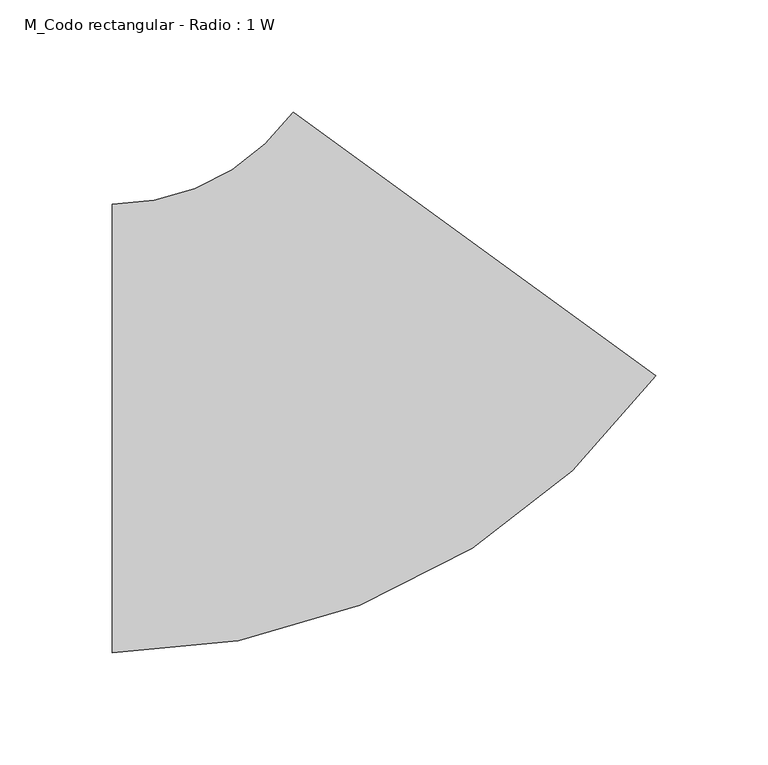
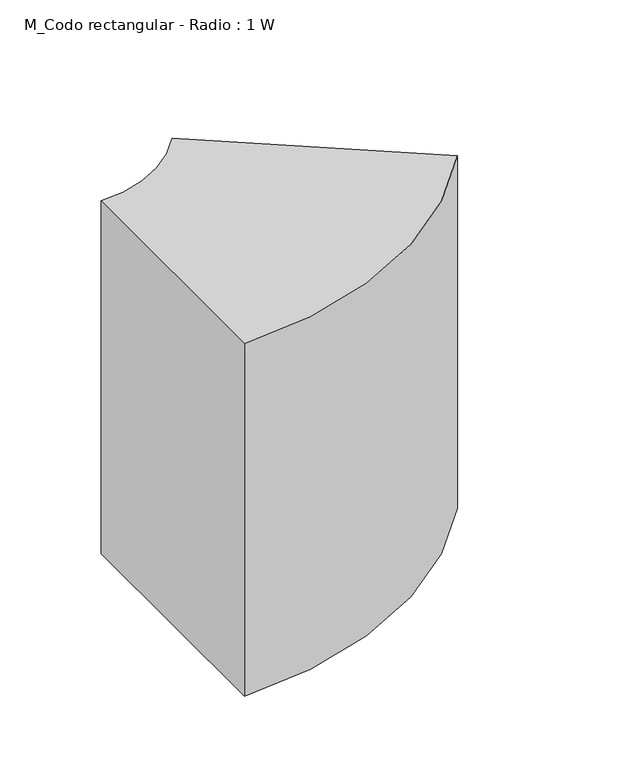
"""IFC4 building model written with IfcOpenShell, lengths in millimetres: duct fitting geometry, M_Codo rectangular - Radio : 1 W."""

from ifc_helpers import new_model, si_unit, point, frame, frame_2d, origin, place, context, project, spatial, polyline, circle_curve, trimmed, segment, composite_curve, outline, extrude, source, transform, mapped, element, save


def m_codo_rectangular_radio_1_w_45f26de2(model_context):
    return source(origin(), model_context, "Body", "SweptSolid", [
        extrude(outline(composite_curve([segment(trimmed(circle_curve(frame_2d((-101.8686935, 200.0)), 300.0), [point((140.7854391, 23.5942973))], [point((-101.8686935, -100.0))], False, "CARTESIAN"), True, "CONTINUOUS"), segment(polyline([(-101.8686935, -100.0), (-101.8686935, 100.0)]), True, "CONTINUOUS"), segment(trimmed(circle_curve(frame_2d((-101.8686935, 200.0)), 100.0), [point((-101.8686935, 100.0))], [point((-20.9839826, 141.1980991))], True, "CARTESIAN"), True, "CONTINUOUS"), segment(polyline([(-20.9839826, 141.1980991), (140.7854391, 23.5942973)]), True, "CONTINUOUS")], self_intersect=False)), frame((0.0, 0.0, -150.0), z_axis=(0.0, 0.0, 1.0), x_axis=(1.0, 0.0, 0.0)), (0.0, 0.0, 1.0), 300.0),
    ])


if __name__ == "__main__":
    model = new_model("IFC4")
    model_context = context("Model", 3, world=origin())
    ifc_project = project(units=[si_unit("LENGTHUNIT", "METRE", prefix="MILLI")], contexts=[model_context])
    site = spatial("IfcSite", under=ifc_project)
    building = spatial("IfcBuilding", under=site)
    placement = place(None, origin())
    m_codo_rectangular_radio_1_w_shape = m_codo_rectangular_radio_1_w_45f26de2(model_context)
    element("IfcDuctFitting", 1, ObjectType="M_Codo rectangular - Radio : 1 W", at=placement, inside=building, context=model_context, shape_type="MappedRepresentation", body=[
        mapped(m_codo_rectangular_radio_1_w_shape, transform((0.0, 0.0, 0.0), x_axis=(1.0, 0.0, 0.0), y_axis=(0.0, 1.0, 0.0), z_axis=(0.0, 0.0, 1.0))),
    ])
    save(model, "model.ifc")
